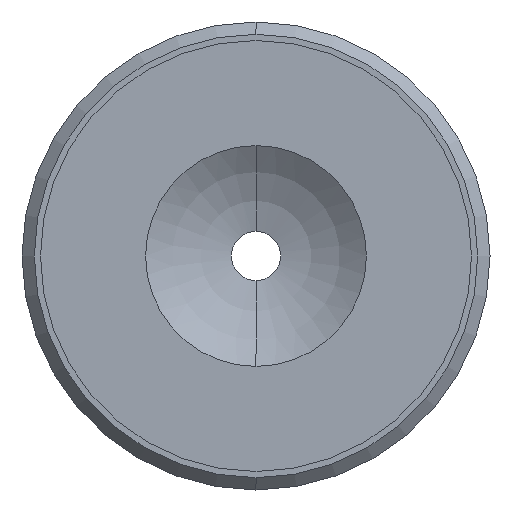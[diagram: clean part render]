
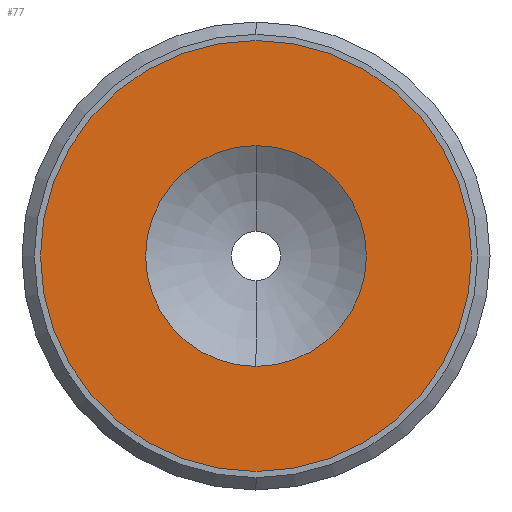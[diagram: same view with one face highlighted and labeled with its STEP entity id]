
A CAD part, left-side view. The second image highlights one B-rep face of the part: STEP entity #77.
In plain terms, the highlighted planar face has unit normal (-1, 0, 0).
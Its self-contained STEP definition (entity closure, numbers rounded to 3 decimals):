
#4 = CIRCLE ( 'NONE', #9, 17.5 ) ;
#9 = AXIS2_PLACEMENT_3D ( 'NONE', #175, #491, #220 ) ;
#42 = AXIS2_PLACEMENT_3D ( 'NONE', #44, #349, #89 ) ;
#44 = CARTESIAN_POINT ( 'NONE',  ( 0., 0., 0. ) ) ;
#60 = ORIENTED_EDGE ( 'NONE', *, *, #499, .T. ) ;
#77 = ADVANCED_FACE ( 'NONE', ( #163, #424 ), #374, .F. ) ;
#89 = DIRECTION ( 'NONE',  ( 0., 0., 1. ) ) ;
#90 = AXIS2_PLACEMENT_3D ( 'NONE', #415, #151, #465 ) ;
#91 = CIRCLE ( 'NONE', #90, 17.5 ) ;
#100 = CIRCLE ( 'NONE', #42, 8.962 ) ;
#115 = VERTEX_POINT ( 'NONE', #513 ) ;
#118 = CARTESIAN_POINT ( 'NONE',  ( 0., 0., -8.962 ) ) ;
#142 = AXIS2_PLACEMENT_3D ( 'NONE', #422, #259, #321 ) ;
#151 = DIRECTION ( 'NONE',  ( -1., 0., 0. ) ) ;
#163 = FACE_BOUND ( 'NONE', #518, .T. ) ;
#175 = CARTESIAN_POINT ( 'NONE',  ( 0., 0., 0. ) ) ;
#187 = DIRECTION ( 'NONE',  ( -1., 0., 0. ) ) ;
#215 = CIRCLE ( 'NONE', #331, 8.962 ) ;
#220 = DIRECTION ( 'NONE',  ( 0., 0., 1. ) ) ;
#233 = CARTESIAN_POINT ( 'NONE',  ( 0., 0., -17.5 ) ) ;
#244 = EDGE_LOOP ( 'NONE', ( #60, #384 ) ) ;
#259 = DIRECTION ( 'NONE',  ( 1., 0., 0. ) ) ;
#261 = VERTEX_POINT ( 'NONE', #118 ) ;
#299 = EDGE_CURVE ( 'NONE', #476, #115, #4, .T. ) ;
#311 = CARTESIAN_POINT ( 'NONE',  ( 0., 0., 8.962 ) ) ;
#320 = EDGE_CURVE ( 'NONE', #439, #261, #100, .T. ) ;
#321 = DIRECTION ( 'NONE',  ( 0., 0., -1. ) ) ;
#331 = AXIS2_PLACEMENT_3D ( 'NONE', #457, #187, #502 ) ;
#349 = DIRECTION ( 'NONE',  ( -1., 0., 0. ) ) ;
#374 = PLANE ( 'NONE',  #142 ) ;
#384 = ORIENTED_EDGE ( 'NONE', *, *, #299, .T. ) ;
#399 = EDGE_CURVE ( 'NONE', #261, #439, #215, .T. ) ;
#415 = CARTESIAN_POINT ( 'NONE',  ( 0., 0., 0. ) ) ;
#422 = CARTESIAN_POINT ( 'NONE',  ( 0., 8.962, 0. ) ) ;
#424 = FACE_OUTER_BOUND ( 'NONE', #244, .T. ) ;
#439 = VERTEX_POINT ( 'NONE', #311 ) ;
#457 = CARTESIAN_POINT ( 'NONE',  ( 0., 0., 0. ) ) ;
#465 = DIRECTION ( 'NONE',  ( 0., 0., 1. ) ) ;
#476 = VERTEX_POINT ( 'NONE', #233 ) ;
#491 = DIRECTION ( 'NONE',  ( -1., 0., 0. ) ) ;
#499 = EDGE_CURVE ( 'NONE', #115, #476, #91, .T. ) ;
#502 = DIRECTION ( 'NONE',  ( 0., 0., 1. ) ) ;
#513 = CARTESIAN_POINT ( 'NONE',  ( 0., 0., 17.5 ) ) ;
#518 = EDGE_LOOP ( 'NONE', ( #522, #541 ) ) ;
#522 = ORIENTED_EDGE ( 'NONE', *, *, #320, .F. ) ;
#541 = ORIENTED_EDGE ( 'NONE', *, *, #399, .F. ) ;
